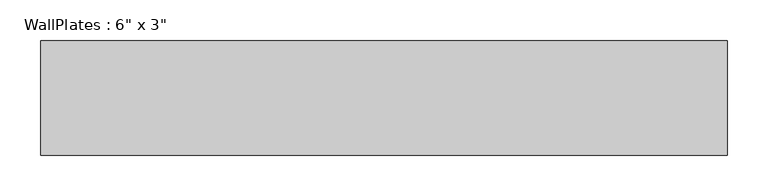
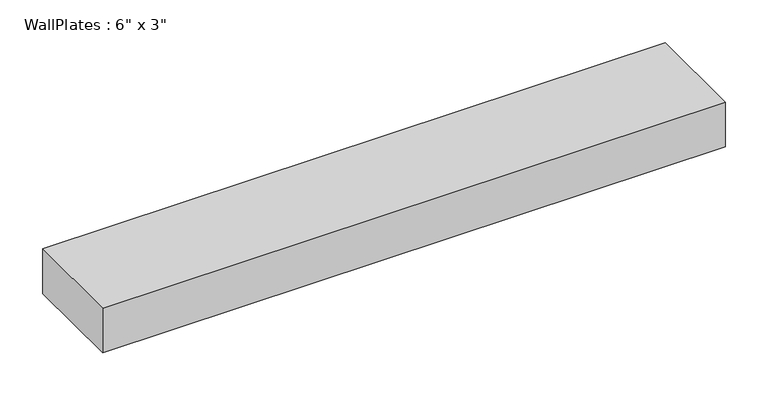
"""IFC4 building model written with IfcOpenShell, lengths in millimetres: beam geometry."""

from ifc_helpers import new_model, si_unit, frame, origin, place, context, project, spatial, polyline, outline, extrude, source, transform, mapped, element, save


def beam_42965887(model_context):
    return source(origin(), model_context, "Body", "SweptSolid", [
        extrude(outline(polyline([(-419.9466667, -69.85), (-419.9466667, 69.85), (419.9466667, 69.85), (419.9466667, -69.85), (-419.9466667, -69.85)])), frame((0.0, 0.0, -31.75), z_axis=(0.0, 0.0, 1.0), x_axis=(1.0, 0.0, 0.0)), (0.0, 0.0, 1.0), 63.5),
    ])


if __name__ == "__main__":
    model = new_model("IFC4")
    model_context = context("Model", 3, world=origin())
    ifc_project = project(units=[si_unit("LENGTHUNIT", "METRE", prefix="MILLI")], contexts=[model_context])
    site = spatial("IfcSite", under=ifc_project)
    building = spatial("IfcBuilding", under=site)
    placement = place(None, origin())
    beam_shape = beam_42965887(model_context)
    element("IfcBeam", 1, ObjectType="WallPlates : 6\" x 3\"", at=placement, inside=building, context=model_context, shape_type="MappedRepresentation", body=[
        mapped(beam_shape, transform((0.0, 0.0, 0.0), x_axis=(1.0, 0.0, 0.0), y_axis=(0.0, 1.0, 0.0), z_axis=(0.0, 0.0, 1.0))),
    ])
    save(model, "model.ifc")
